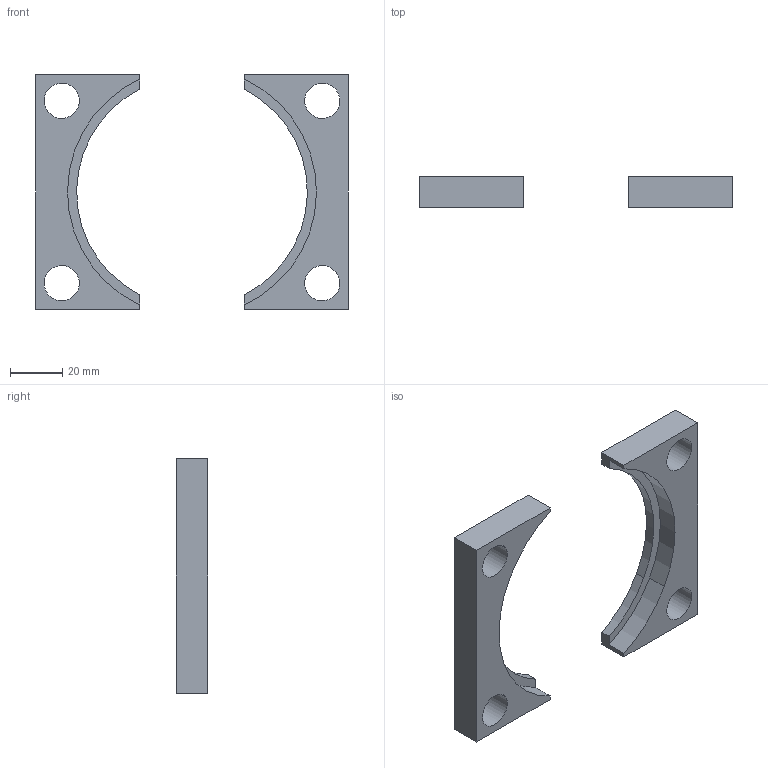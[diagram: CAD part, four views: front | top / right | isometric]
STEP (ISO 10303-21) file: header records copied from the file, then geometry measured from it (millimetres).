
FILE_DESCRIPTION(('CATIA V5 STEP Exchange'),'2;1');
FILE_NAME('W:\LIBRERIA TECAPRES®\FICHEROS CAD\BRIDAS\FPR\FPR 95.stp','2015-06-30T10:16:39+00:00',('none'),('none'),'CATIA Version 5 Release 17 (IN-10)','CATIA V5 STEP AP203','none');
FILE_SCHEMA(('CONFIG_CONTROL_DESIGN'));
Length unit declared in the file: millimetre
Products named in the file (1): FPR 95
Bounding box: 120 x 12 x 90 mm (x, y, z)
Volume: 40922.6 mm3; surface area: 16559.6 mm2
Topology: 2 solids, 2 shells, 32 faces, 84 edges, 56 vertices
Faces by surface type: plane 16, cylinder 16
Entity records: 939 total; most frequent: ORIENTED_EDGE 168, CARTESIAN_POINT 156, DIRECTION 114, EDGE_CURVE 84, VERTEX_POINT 56, VECTOR 52, LINE 52, AXIS2_PLACEMENT_3D 48
